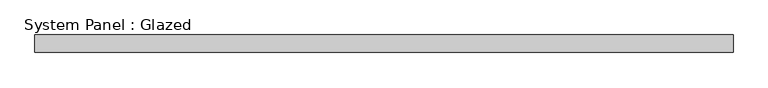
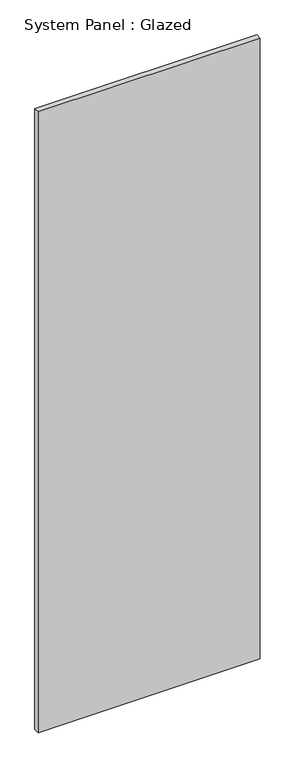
"""IFC4 building model written with IfcOpenShell, lengths in millimetres: plate geometry, System Panel : Glazed."""

from ifc_helpers import new_model, si_unit, origin, origin_with_axes, place, context, project, spatial, polyline, outline, extrude, source, transform, mapped, element, save


def system_panel_glazed_cc32df39(model_context):
    return source(origin(), model_context, "Body", "SweptSolid", [
        extrude(outline(polyline([(499.25, -49.5), (-499.25, -49.5), (-499.25, -24.5), (499.25, -24.5), (499.25, -49.5)])), origin_with_axes(), (0.0, 0.0, 1.0), 2950.0),
    ])


if __name__ == "__main__":
    model = new_model("IFC4")
    model_context = context("Model", 3, world=origin())
    ifc_project = project(units=[si_unit("LENGTHUNIT", "METRE", prefix="MILLI")], contexts=[model_context])
    site = spatial("IfcSite", under=ifc_project)
    building = spatial("IfcBuilding", under=site)
    placement = place(None, origin())
    system_panel_glazed_shape = system_panel_glazed_cc32df39(model_context)
    element("IfcPlate", 1, ObjectType="System Panel : Glazed", at=placement, inside=building, context=model_context, shape_type="MappedRepresentation", body=[
        mapped(system_panel_glazed_shape, transform((0.0, 0.0, 0.0), x_axis=(1.0, 0.0, 0.0), y_axis=(0.0, 1.0, 0.0), z_axis=(0.0, 0.0, 1.0))),
    ])
    save(model, "model.ifc")
